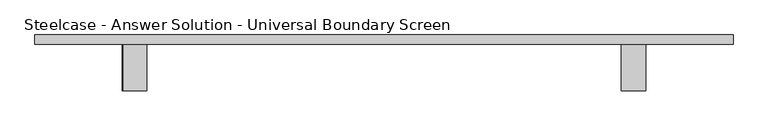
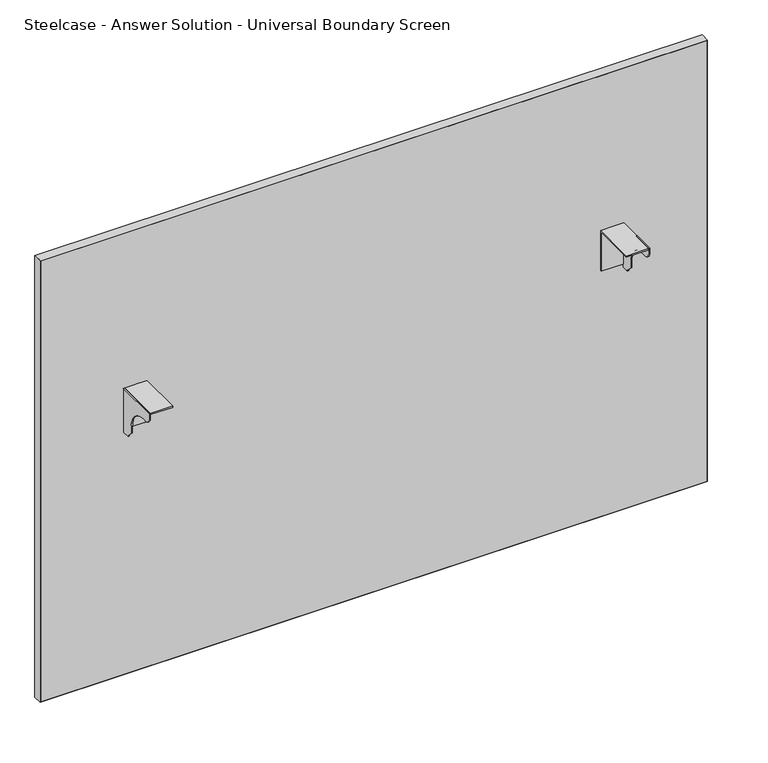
"""IFC4 building model written with IfcOpenShell, lengths in millimetres: furniture geometry, Steelcase - Answer Solution - Universal Boundary Screen : 42H x 60W."""

import ifcopenshell
import ifcopenshell.guid

model = None  # the IFC model being written
_history = None  # IfcOwnerHistory: only IFC2X3 demands one
_inside = {}  # id of a spatial element -> (the spatial element, [elements in it])
_under = {}  # id of a project, library or spatial element -> (it, [spatial elements below it])
_declared = {}  # id of a project -> (the project, [libraries it declares])
_typed = {}  # id of a type object -> (the type object, [elements of that type])
_made_of = {}  # id of a material, layer set ... -> (it, [elements and type objects made of it])


def new_model(schema):
    """Start an empty IFC model of exactly this schema.

    Asked for "IFC4X3", IfcOpenShell would pick the latest addendum, in which some entities
    have other attributes; the version numbers below select the first issue.
    IFC2X3 requires an IfcOwnerHistory on every rooted entity: one is made here for all.
    """
    global model, _history
    if schema == "IFC4X3":
        model = ifcopenshell.file(schema_version=(4, 3, 0, 0))
    else:
        model = ifcopenshell.file(schema=schema)
    _inside.clear()
    _under.clear()
    _declared.clear()
    _typed.clear()
    _made_of.clear()
    _history = None
    if model.schema == "IFC2X3":
        org = make("IfcOrganization", Name="unknown")
        user = make(
            "IfcPersonAndOrganization",
            ThePerson=make("IfcPerson", FamilyName="unknown"),
            TheOrganization=org,
        )
        app = make(
            "IfcApplication",
            ApplicationDeveloper=org,
            Version="unknown",
            ApplicationFullName="unknown",
            ApplicationIdentifier="unknown",
        )
        _history = make(
            "IfcOwnerHistory",
            OwningUser=user,
            OwningApplication=app,
            ChangeAction="ADDED",
            CreationDate=0,
        )
    return model


def make(cls, **values):
    """One entity of the class cls with the attributes given. An attribute that is None is left unset."""
    return model.create_entity(
        cls, **{name: value for name, value in values.items() if value is not None}
    )


def rooted(cls, **values):
    """An entity with a GlobalId (a new one), such as an element, a storey or a relation."""
    return make(cls, GlobalId=ifcopenshell.guid.new(), OwnerHistory=_history, **values)


def si_unit(unit_type, name, prefix=None):
    """IfcSIUnit, for example si_unit("LENGTHUNIT", "METRE", prefix="MILLI")."""
    return make("IfcSIUnit", UnitType=unit_type, Prefix=prefix, Name=name)


def assignment(units):
    """IfcUnitAssignment: the units of a project."""
    return None if units is None else make("IfcUnitAssignment", Units=units)


def point(xyz):
    """IfcCartesianPoint."""
    return None if xyz is None else make("IfcCartesianPoint", Coordinates=xyz)


def direction(xyz):
    """IfcDirection."""
    return None if xyz is None else make("IfcDirection", DirectionRatios=xyz)


def frame(location, z_axis=None, x_axis=None):
    """IfcAxis2Placement3D, a coordinate frame: its origin and axes. An axis left out is left unset."""
    return make(
        "IfcAxis2Placement3D",
        Location=point(location),
        Axis=direction(z_axis),
        RefDirection=direction(x_axis),
    )


def frame_2d(location, x_axis=None):
    """IfcAxis2Placement2D, a coordinate frame in the plane: its origin and x axis."""
    return make(
        "IfcAxis2Placement2D", Location=point(location), RefDirection=direction(x_axis)
    )


def origin():
    """The frame at (0, 0, 0) with its axes left unset."""
    return frame((0.0, 0.0, 0.0))


def place(relative_to, where):
    """IfcLocalPlacement: puts the frame where relative to a parent placement (None: the world)."""
    return make(
        "IfcLocalPlacement", PlacementRelTo=relative_to, RelativePlacement=where
    )


def context(
    kind, dimensions, precision=None, world=None, true_north=None, identifier=None
):
    """IfcGeometricRepresentationContext, for example the 3D "Model" context."""
    return make(
        "IfcGeometricRepresentationContext",
        ContextIdentifier=identifier,
        ContextType=kind,
        CoordinateSpaceDimension=dimensions,
        Precision=precision,
        WorldCoordinateSystem=world,
        TrueNorth=true_north,
    )


def project(units=None, contexts=None):
    """IfcProject with its units and contexts."""
    return rooted(
        "IfcProject",
        Name="project",
        RepresentationContexts=contexts,
        UnitsInContext=assignment(units),
    )


def spatial(cls, under=None, at=None, **own):
    """A site, building, storey or space (cls), placed at a placement, below another one or the project."""
    s = rooted(cls, ObjectPlacement=at, **own)
    if under is not None:
        _under.setdefault(under.id(), (under, []))[1].append(s)
    return s


def polyline(points):
    """IfcPolyline through the points."""
    return make("IfcPolyline", Points=[point(p) for p in points])


def circle_curve(where, radius):
    """IfcCircle in the frame where."""
    return make("IfcCircle", Position=where, Radius=radius)


def trimmed(basis, trim1, trim2, sense, master):
    """IfcTrimmedCurve: the piece of a basis curve between two trims."""
    return make(
        "IfcTrimmedCurve",
        BasisCurve=basis,
        Trim1=trim1,
        Trim2=trim2,
        SenseAgreement=sense,
        MasterRepresentation=master,
    )


def segment(curve, same_sense, transition):
    """IfcCompositeCurveSegment."""
    return make(
        "IfcCompositeCurveSegment",
        Transition=transition,
        SameSense=same_sense,
        ParentCurve=curve,
    )


def composite_curve(segments, self_intersect=None):
    """IfcCompositeCurve: segments joined end to end."""
    return make("IfcCompositeCurve", Segments=segments, SelfIntersect=self_intersect)


def outline(outer, holes=None, kind="AREA"):
    """IfcArbitraryClosedProfileDef: a profile drawn as a closed curve; with holes, ...WithVoids."""
    if holes is None:
        return make("IfcArbitraryClosedProfileDef", ProfileType=kind, OuterCurve=outer)
    return make(
        "IfcArbitraryProfileDefWithVoids",
        ProfileType=kind,
        OuterCurve=outer,
        InnerCurves=holes,
    )


def extrude(swept, where, along, depth):
    """IfcExtrudedAreaSolid: the profile swept, set in the frame where, extruded along a direction by depth."""
    return make(
        "IfcExtrudedAreaSolid",
        SweptArea=swept,
        Position=where,
        ExtrudedDirection=direction(along),
        Depth=depth,
    )


def shape(context_of_items, identifier, shape_type, items):
    """IfcShapeRepresentation: the items that make up one representation, for example the "Body"."""
    return make(
        "IfcShapeRepresentation",
        ContextOfItems=context_of_items,
        RepresentationIdentifier=identifier,
        RepresentationType=shape_type,
        Items=items,
    )


def source(mapping_origin, context_of_items, identifier, shape_type, items):
    """IfcRepresentationMap: a shape defined once, which mapped items show again and again."""
    return make(
        "IfcRepresentationMap",
        MappingOrigin=mapping_origin,
        MappedRepresentation=shape(context_of_items, identifier, shape_type, items),
    )


def transform(
    local_origin,
    x_axis=None,
    y_axis=None,
    z_axis=None,
    scale=None,
    scale2=None,
    scale3=None,
    uniform=True,
):
    """IfcCartesianTransformationOperator3D, or its non-uniform kind. x_axis, y_axis, z_axis: its Axis1, 2, 3."""
    if uniform:
        return make(
            "IfcCartesianTransformationOperator3D",
            Axis1=direction(x_axis),
            Axis2=direction(y_axis),
            LocalOrigin=point(local_origin),
            Scale=scale,
            Axis3=direction(z_axis),
        )
    return make(
        "IfcCartesianTransformationOperator3DnonUniform",
        Axis1=direction(x_axis),
        Axis2=direction(y_axis),
        LocalOrigin=point(local_origin),
        Scale=scale,
        Axis3=direction(z_axis),
        Scale2=scale2,
        Scale3=scale3,
    )


def mapped(mapping_source, mapping_target):
    """IfcMappedItem: shows the shape of a source again, moved by a transform."""
    return make(
        "IfcMappedItem", MappingSource=mapping_source, MappingTarget=mapping_target
    )


def made_of(thing, what):
    """Note that an element or type object is made of a material, layer set ...; save() writes the relation."""
    if what is not None:
        _made_of.setdefault(what.id(), (what, []))[1].append(thing)
    return thing


def element(
    cls,
    number,
    at=None,
    inside=None,
    cuts=None,
    type_object=None,
    material=None,
    context=None,
    identifier="Body",
    shape_type=None,
    held_by="IfcProductDefinitionShape",
    body=None,
    shapes=None,
    **own,
):
    """One element of the class cls, such as IfcWall. Its Tag is "e" and its number.

    at: its placement. inside: the storey or other place that contains it. cuts: it is an
    opening in that element (IfcRelVoidsElement). A single representation is given by context,
    identifier, shape_type and body (its items); several are given by shapes. held_by: the class
    of the entity that holds the representations. save() writes the other relations.
    """
    e = rooted(cls, Tag="e%d" % number, ObjectPlacement=at, **own)
    if body is not None:
        shapes = [shape(context, identifier, shape_type, body)]
    if shapes is not None:
        e.Representation = make(held_by, Representations=shapes)
    if inside is not None:
        _inside.setdefault(inside.id(), (inside, []))[1].append(e)
    if cuts is not None:
        rooted(
            "IfcRelVoidsElement", RelatingBuildingElement=cuts, RelatedOpeningElement=e
        )
    if type_object is not None:
        _typed.setdefault(type_object.id(), (type_object, []))[1].append(e)
    return made_of(e, material)


def aggregate(whole, parts):
    """IfcRelAggregates: a whole, such as a stair, and the parts it consists of."""
    return rooted("IfcRelAggregates", RelatingObject=whole, RelatedObjects=parts)


def save(model, path):
    """Write the relations noted so far, then the file.

    IfcRelAggregates (storeys below a building ...), IfcRelContainedInSpatialStructure (elements
    in a storey), IfcRelDefinesByType, IfcRelAssociatesMaterial and IfcRelDeclares: one each for
    every whole, place, type object, material and project.
    """
    for whole, parts in _under.values():
        aggregate(whole, parts)
    for where, things in _inside.values():
        rooted(
            "IfcRelContainedInSpatialStructure",
            RelatedElements=things,
            RelatingStructure=where,
        )
    for kind, things in _typed.values():
        rooted("IfcRelDefinesByType", RelatedObjects=things, RelatingType=kind)
    for what, things in _made_of.values():
        rooted("IfcRelAssociatesMaterial", RelatedObjects=things, RelatingMaterial=what)
    for by, libraries in _declared.values():
        rooted("IfcRelDeclares", RelatingContext=by, RelatedDefinitions=libraries)
    model.write(path)


def steelcase_answer_solution_universal_boundary_screen_d905c523(model_context):
    return source(origin(), model_context, "Body", "SweptSolid", [
        extrude(outline(polyline([(-103.1670434, 689.3558876), (-103.1670434, 692.1499758), (-1.5668826, 692.1499758), (-1.5668826, 595.5029317), (-4.1079736, 595.5029317), (-4.1079736, 689.3558876), (-103.1670434, 689.3558876)])), frame((1048.2336711, 0.0, 0.0), z_axis=(1.0, 0.0, 0.0), x_axis=(0.0, 1.0, 0.0)), (0.0, 0.0, 1.0), 53.3444116),
        extrude(outline(composite_curve([segment(polyline([(-103.1670434, 679.2814802), (-103.1670434, 692.1499758), (-1.5668826, 692.1499758), (-1.5668826, 586.9634093), (-19.8232934, 586.9634093), (-19.8232934, 589.7574248), (-32.0458032, 601.9799346), (-32.0458032, 615.7814802)]), True, "CONTINUOUS"), segment(trimmed(circle_curve(frame_2d((-82.8458032, 615.7814802)), 50.8), [point((-32.0458032, 615.7814802))], [point((-82.8458032, 666.5814802))], True, "CARTESIAN"), True, "CONTINUOUS"), segment(polyline([(-82.8458032, 666.5814802), (-90.4670434, 666.5814802)]), True, "CONTINUOUS"), segment(trimmed(circle_curve(frame_2d((-90.4670434, 679.2814802)), 12.7), [point((-90.4670434, 666.5814802))], [point((-103.1670434, 679.2814802))], False, "CARTESIAN"), True, "CONTINUOUS")], self_intersect=False)), frame((1099.0328959, 0.0, 0.0), z_axis=(1.0, 0.0, 0.0), x_axis=(0.0, 1.0, 0.0)), (0.0, 0.0, 1.0), 2.5451868),
        extrude(outline(polyline([(-103.1670434, 689.3558876), (-103.1670434, 692.1499758), (-1.5668826, 692.1499758), (-1.5668826, 595.5029317), (-4.1079736, 595.5029317), (-4.1079736, 689.3558876), (-103.1670434, 689.3558876)])), frame((-38.8767306, 0.0, 0.0), z_axis=(1.0, 0.0, 0.0), x_axis=(0.0, 1.0, 0.0)), (0.0, 0.0, 1.0), 50.7992249),
        extrude(outline(composite_curve([segment(polyline([(-103.1670434, 679.2814802), (-103.1670434, 692.1499758), (-1.5668826, 692.1499758), (-1.5668826, 586.9634093), (-19.8232934, 586.9634093), (-19.8232934, 589.7574248), (-32.0458032, 601.9799346), (-32.0458032, 615.7814802)]), True, "CONTINUOUS"), segment(trimmed(circle_curve(frame_2d((-82.8458032, 615.7814802)), 50.8), [point((-32.0458032, 615.7814802))], [point((-82.8458032, 666.5814802))], True, "CARTESIAN"), True, "CONTINUOUS"), segment(polyline([(-82.8458032, 666.5814802), (-90.4670434, 666.5814802)]), True, "CONTINUOUS"), segment(trimmed(circle_curve(frame_2d((-90.4670434, 679.2814802)), 12.7), [point((-90.4670434, 666.5814802))], [point((-103.1670434, 679.2814802))], False, "CARTESIAN"), True, "CONTINUOUS")], self_intersect=False)), frame((-41.4219173, 0.0, 0.0), z_axis=(1.0, 0.0, 0.0), x_axis=(0.0, 1.0, 0.0)), (0.0, 0.0, 1.0), 2.5451868),
        extrude(outline(polyline([(-230.9293422, 18.9055112), (1291.0855076, 18.9055112), (1291.0855076, -1.5668826), (-230.9293422, -1.5668826), (-230.9293422, 18.9055112)])), frame((0.0, 0.0, 1.016), z_axis=(0.0, 0.0, 1.0), x_axis=(1.0, 0.0, 0.0)), (0.0, 0.0, 1.0), 1064.7914249),
        extrude(outline(polyline([(1066.8, 1292.0780827), (1066.8, -231.9219173), (0.0, -231.9219173), (0.0, 1292.0780827), (1066.8, 1292.0780827)]), holes=[polyline([(1065.8074249, 1291.0855076), (1.016, 1291.0855076), (1.016, -230.9293422), (1065.8074249, -230.9293422), (1065.8074249, 1291.0855076)])]), frame((0.0, -1.5668826, 0.0), z_axis=(0.0, 1.0, 0.0), x_axis=(0.0, 0.0, 1.0)), (0.0, 0.0, 1.0), 20.4723938),
    ])


if __name__ == "__main__":
    model = new_model("IFC4")
    model_context = context("Model", 3, world=origin())
    ifc_project = project(units=[si_unit("LENGTHUNIT", "METRE", prefix="MILLI")], contexts=[model_context])
    site = spatial("IfcSite", under=ifc_project)
    building = spatial("IfcBuilding", under=site)
    placement = place(None, origin())
    steelcase_answer_solution_universal_boundary_screen_shape = steelcase_answer_solution_universal_boundary_screen_d905c523(model_context)
    element("IfcFurniture", 1, ObjectType="Steelcase - Answer Solution - Universal Boundary Screen : 42H x 60W", at=placement, inside=building, context=model_context, shape_type="MappedRepresentation", body=[
        mapped(steelcase_answer_solution_universal_boundary_screen_shape, transform((0.0, 0.0, 0.0), x_axis=(1.0, 0.0, 0.0), y_axis=(0.0, 1.0, 0.0), z_axis=(0.0, 0.0, 1.0))),
    ])
    save(model, "model.ifc")
